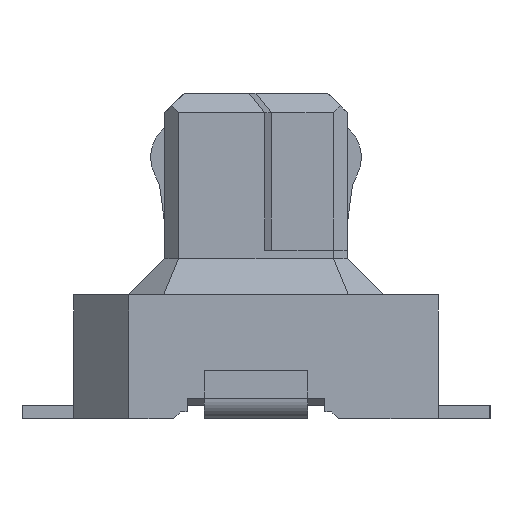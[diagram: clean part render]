
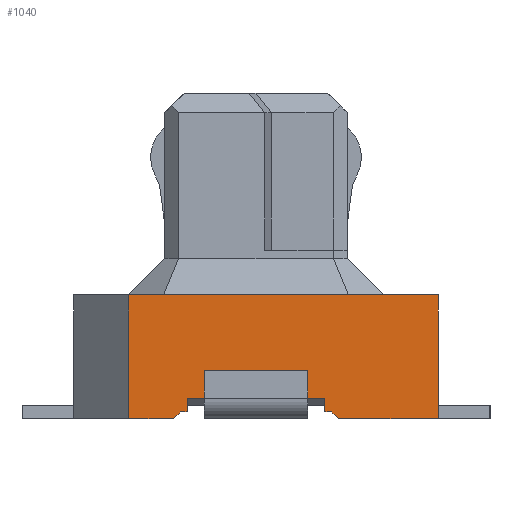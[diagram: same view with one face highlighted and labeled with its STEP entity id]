
A CAD part, left-side view. The second image highlights one B-rep face of the part: STEP entity #1040.
In plain terms, the highlighted planar face has unit normal (-1, 0, 0).
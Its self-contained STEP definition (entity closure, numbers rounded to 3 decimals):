
#10=CARTESIAN_POINT('',(7.123,1.997,0.)
);
#20=DIRECTION('',(1.,0.,0.));
#30=DIRECTION('',(0.,1.,0.));
#40=AXIS2_PLACEMENT_3D('',#10,#20,#30);
#50=PLANE('',#40);
#60=CARTESIAN_POINT('',(7.123,0.,1.8));
#70=DIRECTION('',(0.,1.,0.));
#80=VECTOR('',#70,1.);
#90=LINE('',#60,#80);
#100=CARTESIAN_POINT('',(7.123,-4.691,1.8));
#110=VERTEX_POINT('',#100);
#120=CARTESIAN_POINT('',(7.123,-0.191,1.8));
#130=VERTEX_POINT('',#120);
#140=EDGE_CURVE('',#110,#130,#90,.T.);
#150=ORIENTED_EDGE('',*,*,#140,.T.);
#160=CARTESIAN_POINT('',(7.123,-4.691,1.));
#170=DIRECTION('',(0.,0.,1.));
#180=VECTOR('',#170,1.);
#190=LINE('',#160,#180);
#200=CARTESIAN_POINT('',(7.123,-4.691,0.));
#210=VERTEX_POINT('',#200);
#220=EDGE_CURVE('',#210,#110,#190,.T.);
#230=ORIENTED_EDGE('',*,*,#220,.T.);
#240=CARTESIAN_POINT('',(7.123,0.,0.));
#250=DIRECTION('',(0.,1.,0.));
#260=VECTOR('',#250,1.);
#270=LINE('',#240,#260);
#280=CARTESIAN_POINT('',(7.123,-3.241,0.));
#290=VERTEX_POINT('',#280);
#300=EDGE_CURVE('',#210,#290,#270,.T.);
#310=ORIENTED_EDGE('',*,*,#300,.F.);
#320=CARTESIAN_POINT('',(7.123,0.,3.241));
#330=DIRECTION('',(0.,-0.707,-0.707));
#340=VECTOR('',#330,1.);
#350=LINE('',#320,#340);
#360=CARTESIAN_POINT('',(7.123,-3.141,0.1));
#370=VERTEX_POINT('',#360);
#380=EDGE_CURVE('',#370,#290,#350,.T.);
#390=ORIENTED_EDGE('',*,*,#380,.T.);
#400=CARTESIAN_POINT('',(7.123,0.,0.1));
#410=DIRECTION('',(0.,1.,0.));
#420=VECTOR('',#410,1.);
#430=LINE('',#400,#420);
#440=CARTESIAN_POINT('',(7.123,-3.041,0.1));
#450=VERTEX_POINT('',#440);
#460=EDGE_CURVE('',#370,#450,#430,.T.);
#470=ORIENTED_EDGE('',*,*,#460,.F.);
#480=CARTESIAN_POINT('',(7.123,-3.041,0.));
#490=DIRECTION('',(0.,0.,1.));
#500=VECTOR('',#490,1.);
#510=LINE('',#480,#500);
#520=CARTESIAN_POINT('',(7.123,-3.041,0.3));
#530=VERTEX_POINT('',#520);
#540=EDGE_CURVE('',#450,#530,#510,.T.);
#550=ORIENTED_EDGE('',*,*,#540,.F.);
#560=CARTESIAN_POINT('',(7.123,0.,0.3));
#570=DIRECTION('',(0.,1.,0.));
#580=VECTOR('',#570,1.);
#590=LINE('',#560,#580);
#600=CARTESIAN_POINT('',(7.123,-1.041,0.3));
#610=VERTEX_POINT('',#600);
#620=EDGE_CURVE('',#530,#610,#590,.T.);
#630=ORIENTED_EDGE('',*,*,#620,.F.);
#640=CARTESIAN_POINT('',(7.123,-1.041,0.));
#650=DIRECTION('',(0.,0.,-1.));
#660=VECTOR('',#650,1.);
#670=LINE('',#640,#660);
#680=CARTESIAN_POINT('',(7.123,-1.041,0.1));
#690=VERTEX_POINT('',#680);
#700=EDGE_CURVE('',#610,#690,#670,.T.);
#710=ORIENTED_EDGE('',*,*,#700,.F.);
#720=CARTESIAN_POINT('',(7.123,0.,0.1));
#730=DIRECTION('',(0.,1.,0.));
#740=VECTOR('',#730,1.);
#750=LINE('',#720,#740);
#760=CARTESIAN_POINT('',(7.123,-0.941,0.1));
#770=VERTEX_POINT('',#760);
#780=EDGE_CURVE('',#690,#770,#750,.T.);
#790=ORIENTED_EDGE('',*,*,#780,.F.);
#800=CARTESIAN_POINT('',(7.123,-0.841,0.));
#810=DIRECTION('',(0.,-0.707,0.707));
#820=VECTOR('',#810,1.);
#830=LINE('',#800,#820);
#840=CARTESIAN_POINT('',(7.123,-0.841,0.));
#850=VERTEX_POINT('',#840);
#860=EDGE_CURVE('',#850,#770,#830,.T.);
#870=ORIENTED_EDGE('',*,*,#860,.T.);
#880=CARTESIAN_POINT('',(7.123,0.,0.));
#890=DIRECTION('',(0.,1.,0.));
#900=VECTOR('',#890,1.);
#910=LINE('',#880,#900);
#920=CARTESIAN_POINT('',(7.123,-0.191,0.));
#930=VERTEX_POINT('',#920);
#940=EDGE_CURVE('',#850,#930,#910,.T.);
#950=ORIENTED_EDGE('',*,*,#940,.F.);
#960=CARTESIAN_POINT('',(7.123,-0.191,0.));
#970=DIRECTION('',(0.,0.,-1.));
#980=VECTOR('',#970,1.);
#990=LINE('',#960,#980);
#1000=EDGE_CURVE('',#130,#930,#990,.T.);
#1010=ORIENTED_EDGE('',*,*,#1000,.T.);
#1020=EDGE_LOOP('',(#1010,#950,#870,#790,#710,#630,#550,#470,#390,#310,
#230,#150));
#1030=FACE_OUTER_BOUND('',#1020,.T.);
#1040=ADVANCED_FACE('',(#1030),#50,.F.);
